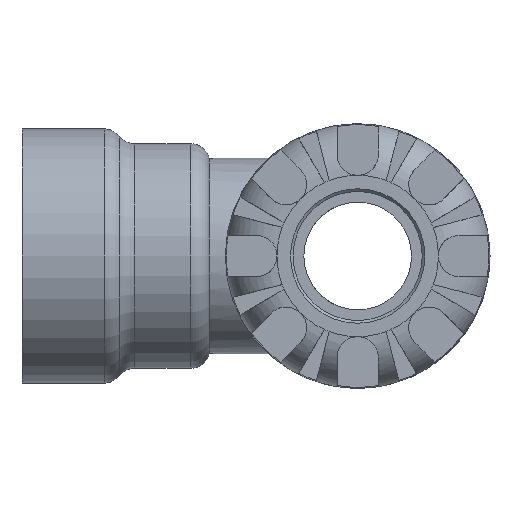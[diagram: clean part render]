
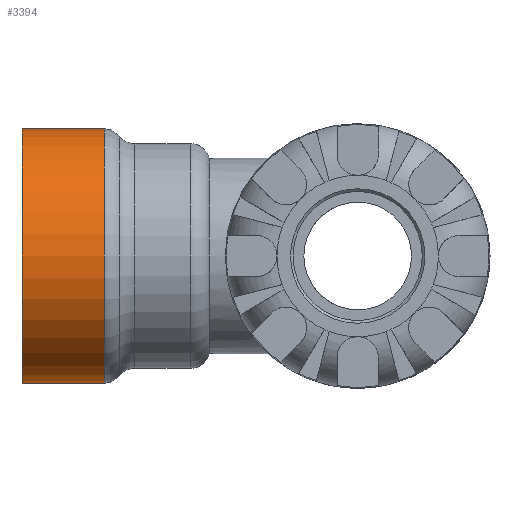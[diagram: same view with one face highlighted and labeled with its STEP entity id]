
A CAD part, left-side view. The second image highlights one B-rep face of the part: STEP entity #3394.
In plain terms, the highlighted cylindrical face has radius 19.689 mm (diameter 39.378 mm), a full revolution.
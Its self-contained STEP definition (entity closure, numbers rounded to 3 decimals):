
#18=CYLINDRICAL_SURFACE('',#3611,19.689);
#89=FACE_BOUND('',#503,.T.);
#294=FACE_OUTER_BOUND('',#502,.T.);
#502=EDGE_LOOP('',(#2093));
#503=EDGE_LOOP('',(#2094));
#734=CIRCLE('',#3609,19.689);
#736=CIRCLE('',#3612,19.689);
#1248=VERTEX_POINT('',#5232);
#1250=VERTEX_POINT('',#5237);
#1579=EDGE_CURVE('',#1248,#1248,#734,.T.);
#1581=EDGE_CURVE('',#1250,#1250,#736,.T.);
#2093=ORIENTED_EDGE('',*,*,#1581,.T.);
#2094=ORIENTED_EDGE('',*,*,#1579,.F.);
#3394=ADVANCED_FACE('',(#294,#89),#18,.T.);
#3609=AXIS2_PLACEMENT_3D('',#5233,#4017,#4018);
#3611=AXIS2_PLACEMENT_3D('',#5236,#4021,#4022);
#3612=AXIS2_PLACEMENT_3D('',#5238,#4023,#4024);
#4017=DIRECTION('center_axis',(0.,-1.,0.));
#4018=DIRECTION('ref_axis',(-1.,0.,0.));
#4021=DIRECTION('center_axis',(0.,-1.,0.));
#4022=DIRECTION('ref_axis',(-1.,0.,0.));
#4023=DIRECTION('center_axis',(0.,-1.,0.));
#4024=DIRECTION('ref_axis',(1.,0.,0.));
#5232=CARTESIAN_POINT('',(19.689,39.291,0.));
#5233=CARTESIAN_POINT('Origin',(0.,39.291,0.));
#5236=CARTESIAN_POINT('Origin',(0.,44.748,0.));
#5237=CARTESIAN_POINT('',(-19.689,52.,0.));
#5238=CARTESIAN_POINT('Origin',(0.,52.,0.));
